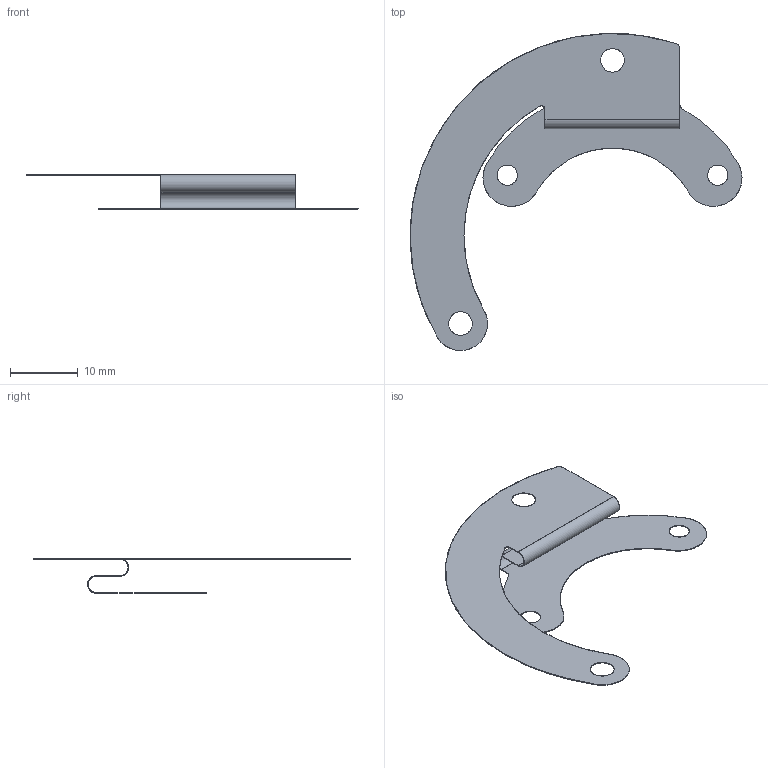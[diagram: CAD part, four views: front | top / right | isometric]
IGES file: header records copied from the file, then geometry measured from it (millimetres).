
Start section: SolidWorks IGES file using analytic representation for surfaces
Bounding box: 49.19 x 46.99 x 5.1 mm (x, y, z)
Surface area: 2393.9 mm2 (no closed solid volume)
Topology: 0 solids, 0 shells, 41 faces, 792 edges, 792 vertices
Faces by surface type: revolution 27, bspline 14
